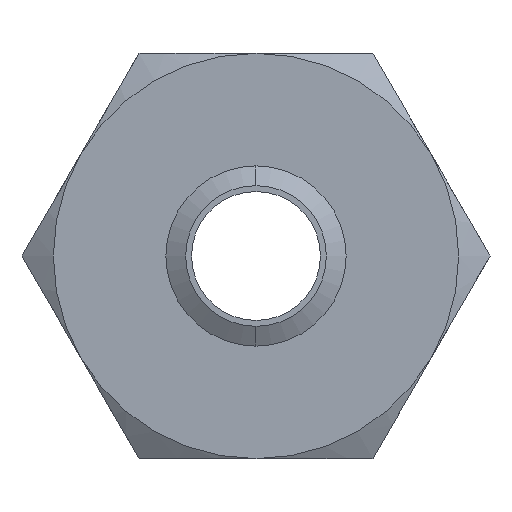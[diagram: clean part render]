
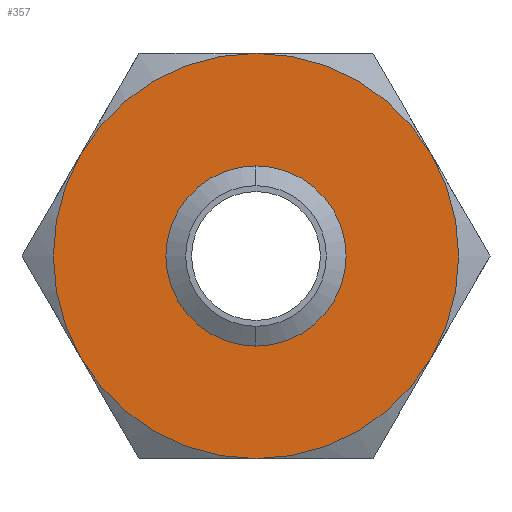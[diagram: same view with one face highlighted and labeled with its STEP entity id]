
A CAD part, front view. The second image highlights one B-rep face of the part: STEP entity #357.
In plain terms, the highlighted planar face has unit normal (0, -1, 0).
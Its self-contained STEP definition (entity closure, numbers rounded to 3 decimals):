
#329 = EDGE_CURVE ( 'NONE', #1847, #1853, #1008, .T. ) ;
#337 = EDGE_CURVE ( 'NONE', #338, #368, #1029, .T. ) ;
#338 = VERTEX_POINT ( 'NONE', #1030 ) ;
#339 = ORIENTED_EDGE ( 'NONE', *, *, #340, .F. ) ;
#340 = EDGE_CURVE ( 'NONE', #341, #338, #1090, .T. ) ;
#341 = VERTEX_POINT ( 'NONE', #1091 ) ;
#342 = ORIENTED_EDGE ( 'NONE', *, *, #343, .F. ) ;
#343 = EDGE_CURVE ( 'NONE', #362, #341, #1085, .T. ) ;
#344 = EDGE_LOOP ( 'NONE', ( #345, #346 ) ) ;
#345 = ORIENTED_EDGE ( 'NONE', *, *, #1852, .F. ) ;
#346 = ORIENTED_EDGE ( 'NONE', *, *, #329, .F. ) ;
#357 = ADVANCED_FACE ( 'NONE', ( #1065, #1064 ), #1063, .F. ) ;
#358 = EDGE_LOOP ( 'NONE', ( #359, #363, #366, #369, #339, #342 ) ) ;
#359 = ORIENTED_EDGE ( 'NONE', *, *, #360, .F. ) ;
#360 = EDGE_CURVE ( 'NONE', #361, #362, #1117, .T. ) ;
#361 = VERTEX_POINT ( 'NONE', #1118 ) ;
#362 = VERTEX_POINT ( 'NONE', #1112 ) ;
#363 = ORIENTED_EDGE ( 'NONE', *, *, #364, .F. ) ;
#364 = EDGE_CURVE ( 'NONE', #365, #361, #1111, .T. ) ;
#365 = VERTEX_POINT ( 'NONE', #1106 ) ;
#366 = ORIENTED_EDGE ( 'NONE', *, *, #367, .F. ) ;
#367 = EDGE_CURVE ( 'NONE', #368, #365, #1105, .T. ) ;
#368 = VERTEX_POINT ( 'NONE', #1100 ) ;
#369 = ORIENTED_EDGE ( 'NONE', *, *, #337, .F. ) ;
#1004 = DIRECTION ( 'NONE',  ( 0., 0., -1. ) ) ;
#1005 = DIRECTION ( 'NONE',  ( 0., -1., 0. ) ) ;
#1006 = CARTESIAN_POINT ( 'NONE',  ( 0., 0., 0. ) ) ;
#1007 = AXIS2_PLACEMENT_3D ( 'NONE', #1006, #1005, #1004 ) ;
#1008 = CIRCLE ( 'NONE', #1007, 8.673 ) ;
#1025 = DIRECTION ( 'NONE',  ( 0., 0., 1. ) ) ;
#1026 = DIRECTION ( 'NONE',  ( 0., 1., 0. ) ) ;
#1027 = CARTESIAN_POINT ( 'NONE',  ( 0., 0., 0. ) ) ;
#1028 = AXIS2_PLACEMENT_3D ( 'NONE', #1027, #1026, #1025 ) ;
#1029 = CIRCLE ( 'NONE', #1028, 25. ) ;
#1030 = CARTESIAN_POINT ( 'NONE',  ( 0., 0., -25. ) ) ;
#1059 = DIRECTION ( 'NONE',  ( 0., 0., 1. ) ) ;
#1060 = DIRECTION ( 'NONE',  ( 0., 1., 0. ) ) ;
#1061 = CARTESIAN_POINT ( 'NONE',  ( 14.434, 0., -25. ) ) ;
#1062 = AXIS2_PLACEMENT_3D ( 'NONE', #1061, #1060, #1059 ) ;
#1063 = PLANE ( 'NONE',  #1062 ) ;
#1064 = FACE_BOUND ( 'NONE', #344, .T. ) ;
#1065 = FACE_OUTER_BOUND ( 'NONE', #358, .T. ) ;
#1081 = DIRECTION ( 'NONE',  ( 0., 0., 1. ) ) ;
#1082 = DIRECTION ( 'NONE',  ( 0., 1., 0. ) ) ;
#1083 = CARTESIAN_POINT ( 'NONE',  ( 0., 0., 0. ) ) ;
#1084 = AXIS2_PLACEMENT_3D ( 'NONE', #1083, #1082, #1081 ) ;
#1085 = CIRCLE ( 'NONE', #1084, 25. ) ;
#1086 = DIRECTION ( 'NONE',  ( 0., 0., 1. ) ) ;
#1087 = DIRECTION ( 'NONE',  ( 0., 1., 0. ) ) ;
#1088 = CARTESIAN_POINT ( 'NONE',  ( 0., 0., 0. ) ) ;
#1089 = AXIS2_PLACEMENT_3D ( 'NONE', #1088, #1087, #1086 ) ;
#1090 = CIRCLE ( 'NONE', #1089, 25. ) ;
#1091 = CARTESIAN_POINT ( 'NONE',  ( 21.651, 0., -12.5 ) ) ;
#1100 = CARTESIAN_POINT ( 'NONE',  ( -21.651, 0., -12.5 ) ) ;
#1101 = DIRECTION ( 'NONE',  ( 0., 0., 1. ) ) ;
#1102 = DIRECTION ( 'NONE',  ( 0., 1., 0. ) ) ;
#1103 = CARTESIAN_POINT ( 'NONE',  ( 0., 0., 0. ) ) ;
#1104 = AXIS2_PLACEMENT_3D ( 'NONE', #1103, #1102, #1101 ) ;
#1105 = CIRCLE ( 'NONE', #1104, 25. ) ;
#1106 = CARTESIAN_POINT ( 'NONE',  ( -21.651, 0., 12.5 ) ) ;
#1107 = DIRECTION ( 'NONE',  ( 0., 0., 1. ) ) ;
#1108 = DIRECTION ( 'NONE',  ( 0., 1., 0. ) ) ;
#1109 = CARTESIAN_POINT ( 'NONE',  ( 0., 0., 0. ) ) ;
#1110 = AXIS2_PLACEMENT_3D ( 'NONE', #1109, #1108, #1107 ) ;
#1111 = CIRCLE ( 'NONE', #1110, 25. ) ;
#1112 = CARTESIAN_POINT ( 'NONE',  ( 21.651, 0., 12.5 ) ) ;
#1113 = DIRECTION ( 'NONE',  ( 0., 0., 1. ) ) ;
#1114 = DIRECTION ( 'NONE',  ( 0., 1., 0. ) ) ;
#1115 = CARTESIAN_POINT ( 'NONE',  ( 0., 0., 0. ) ) ;
#1116 = AXIS2_PLACEMENT_3D ( 'NONE', #1115, #1114, #1113 ) ;
#1117 = CIRCLE ( 'NONE', #1116, 25. ) ;
#1118 = CARTESIAN_POINT ( 'NONE',  ( 0., 0., 25. ) ) ;
#1486 = CARTESIAN_POINT ( 'NONE',  ( 0., 0., -8.673 ) ) ;
#1487 = DIRECTION ( 'NONE',  ( 0., 0., -1. ) ) ;
#1488 = DIRECTION ( 'NONE',  ( 0., -1., 0. ) ) ;
#1489 = CARTESIAN_POINT ( 'NONE',  ( 0., 0., 0. ) ) ;
#1490 = AXIS2_PLACEMENT_3D ( 'NONE', #1489, #1488, #1487 ) ;
#1491 = CIRCLE ( 'NONE', #1490, 8.673 ) ;
#1492 = CARTESIAN_POINT ( 'NONE',  ( 0., 0., 8.673 ) ) ;
#1847 = VERTEX_POINT ( 'NONE', #1492 ) ;
#1852 = EDGE_CURVE ( 'NONE', #1853, #1847, #1491, .T. ) ;
#1853 = VERTEX_POINT ( 'NONE', #1486 ) ;
